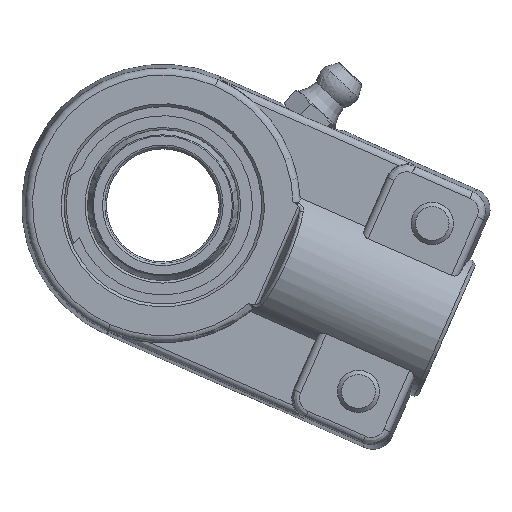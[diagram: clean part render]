
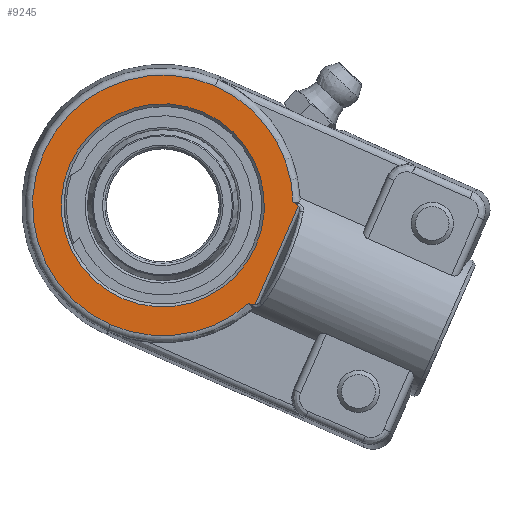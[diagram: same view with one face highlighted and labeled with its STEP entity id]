
A CAD part, left-side view. The second image highlights one B-rep face of the part: STEP entity #9245.
In plain terms, the highlighted planar face has unit normal (-1, 0, 0) as drawn and (0, 0, -1) by its records, which use the part's own axes.
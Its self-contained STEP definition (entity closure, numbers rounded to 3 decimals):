
#3676=CARTESIAN_POINT('',(-7.826,-16.732,-7.));
#3677=VERTEX_POINT('',#3676);
#3693=CARTESIAN_POINT('',(-7.826,-17.064,-7.));
#3694=VERTEX_POINT('',#3693);
#3695=CARTESIAN_POINT('',(-7.826,-16.732,-7.));
#3696=DIRECTION('',(0.0,-1.0,0.0));
#3697=VECTOR('',#3696,0.332);
#3698=LINE('',#3695,#3697);
#3699=EDGE_CURVE('',#3677,#3694,#3698,.T.);
#3757=CARTESIAN_POINT('',(7.826,-17.064,-7.));
#3758=VERTEX_POINT('',#3757);
#3770=CARTESIAN_POINT('',(7.826,-16.732,-7.));
#3771=VERTEX_POINT('',#3770);
#3772=CARTESIAN_POINT('',(7.826,-17.064,-7.));
#3773=DIRECTION('',(0.0,1.0,0.0));
#3774=VECTOR('',#3773,0.332);
#3775=LINE('',#3772,#3774);
#3776=EDGE_CURVE('',#3758,#3771,#3775,.T.);
#4382=CARTESIAN_POINT('',(0.0,14.4,-7.));
#4383=VERTEX_POINT('',#4382);
#4384=CARTESIAN_POINT('',(0.0,0.0,-7.));
#4385=DIRECTION('',(0.0,0.0,1.0));
#4386=DIRECTION('',(0.0,1.0,0.0));
#4387=AXIS2_PLACEMENT_3D('',#4384,#4385,#4386);
#4388=CIRCLE('',#4387,14.4);
#4389=EDGE_CURVE('',#4383,#4383,#4388,.T.);
#7876=CARTESIAN_POINT('',(-18.471,0.,-7.));
#7877=VERTEX_POINT('',#7876);
#7885=CARTESIAN_POINT('',(0.0,0.,-7.));
#7886=DIRECTION('',(0.0,0.0,1.));
#7887=DIRECTION('',(-0.842,-0.54,0.0));
#7888=AXIS2_PLACEMENT_3D('',#7885,#7886,#7887);
#7889=CIRCLE('',#7888,18.471);
#7890=EDGE_CURVE('',#7877,#3677,#7889,.T.);
#7908=CARTESIAN_POINT('',(-18.471,0.,-7.));
#7909=VERTEX_POINT('',#7908);
#7917=CARTESIAN_POINT('',(-18.471,0.,-7.));
#7918=DIRECTION('',(0.0,-1.0,0.0));
#7919=VECTOR('',#7918,0.001);
#7920=LINE('',#7917,#7919);
#7921=EDGE_CURVE('',#7909,#7877,#7920,.T.);
#7938=CARTESIAN_POINT('',(18.471,0.,-7.));
#7939=VERTEX_POINT('',#7938);
#7947=CARTESIAN_POINT('',(0.,0.,-7.));
#7948=DIRECTION('',(0.0,0.0,1.0));
#7949=DIRECTION('',(0.0,1.0,0.0));
#7950=AXIS2_PLACEMENT_3D('',#7947,#7948,#7949);
#7951=CIRCLE('',#7950,18.471);
#7952=EDGE_CURVE('',#7939,#7909,#7951,.T.);
#7966=CARTESIAN_POINT('',(18.471,-0.001,-7.));
#7967=VERTEX_POINT('',#7966);
#7975=CARTESIAN_POINT('',(18.471,-0.001,-7.));
#7976=DIRECTION('',(0.0,1.0,0.0));
#7977=VECTOR('',#7976,0.001);
#7978=LINE('',#7975,#7977);
#7979=EDGE_CURVE('',#7967,#7939,#7978,.T.);
#7996=CARTESIAN_POINT('',(0.0,0.,-7.));
#7997=DIRECTION('',(0.0,0.0,1.0));
#7998=DIRECTION('',(0.842,-0.54,0.0));
#7999=AXIS2_PLACEMENT_3D('',#7996,#7997,#7998);
#8000=CIRCLE('',#7999,18.471);
#8001=EDGE_CURVE('',#3771,#7967,#8000,.T.);
#8889=CARTESIAN_POINT('',(-7.599,-17.616,-7.));
#8890=VERTEX_POINT('',#8889);
#8891=CARTESIAN_POINT('',(-7.826,-17.064,-7.));
#8892=CARTESIAN_POINT('',(-7.826,-17.098,-7.));
#8893=CARTESIAN_POINT('',(-7.824,-17.133,-7.));
#8894=CARTESIAN_POINT('',(-7.808,-17.255,-7.));
#8895=CARTESIAN_POINT('',(-7.783,-17.34,-7.));
#8896=CARTESIAN_POINT('',(-7.712,-17.48,-7.));
#8897=CARTESIAN_POINT('',(-7.668,-17.547,-7.));
#8898=CARTESIAN_POINT('',(-7.601,-17.615,-7.));
#8899=CARTESIAN_POINT('',(-7.6,-17.616,-7.));
#8900=CARTESIAN_POINT('',(-7.599,-17.616,-7.));
#8901=B_SPLINE_CURVE_WITH_KNOTS('',3,(#8891,#8892,#8893,#8894,#8895,#8896,#8897,#8898,#8899,#8900),.UNSPECIFIED.,.F.,.U.,(4,2,2,2,4),(0.0,0.01,0.037,0.058,0.058),.UNSPECIFIED.);
#8902=EDGE_CURVE('',#3694,#8890,#8901,.T.);
#9054=CARTESIAN_POINT('',(7.599,-17.616,-7.));
#9055=VERTEX_POINT('',#9054);
#9067=CARTESIAN_POINT('',(7.599,-17.616,-7.));
#9068=CARTESIAN_POINT('',(7.6,-17.616,-7.));
#9069=CARTESIAN_POINT('',(7.601,-17.615,-7.0));
#9070=CARTESIAN_POINT('',(7.639,-17.577,-7.0));
#9071=CARTESIAN_POINT('',(7.672,-17.536,-7.0));
#9072=CARTESIAN_POINT('',(7.73,-17.446,-7.0));
#9073=CARTESIAN_POINT('',(7.755,-17.399,-7.));
#9074=CARTESIAN_POINT('',(7.809,-17.258,-7.));
#9075=CARTESIAN_POINT('',(7.826,-17.161,-7.));
#9076=CARTESIAN_POINT('',(7.826,-17.064,-7.));
#9077=B_SPLINE_CURVE_WITH_KNOTS('',3,(#9067,#9068,#9069,#9070,#9071,#9072,#9073,#9074,#9075,#9076),.UNSPECIFIED.,.F.,.U.,(4,2,2,2,4),(0.,0.0,0.016,0.032,0.061),.UNSPECIFIED.);
#9078=EDGE_CURVE('',#9055,#3758,#9077,.T.);
#9099=CARTESIAN_POINT('',(-7.599,-17.616,-7.));
#9100=DIRECTION('',(1.0,0.0,0.0));
#9101=VECTOR('',#9100,15.199);
#9102=LINE('',#9099,#9101);
#9103=EDGE_CURVE('',#8890,#9055,#9102,.T.);
#9225=CARTESIAN_POINT('',(0.,0.0,-7.));
#9226=DIRECTION('',(0.0,0.0,1.0));
#9227=DIRECTION('',(1.0,0.0,0.0));
#9228=AXIS2_PLACEMENT_3D('',#9225,#9226,#9227);
#9229=PLANE('',#9228);
#9230=ORIENTED_EDGE('',*,*,#9078,.F.);
#9231=ORIENTED_EDGE('',*,*,#9103,.F.);
#9232=ORIENTED_EDGE('',*,*,#8902,.F.);
#9233=ORIENTED_EDGE('',*,*,#3699,.F.);
#9234=ORIENTED_EDGE('',*,*,#7890,.F.);
#9235=ORIENTED_EDGE('',*,*,#7921,.F.);
#9236=ORIENTED_EDGE('',*,*,#7952,.F.);
#9237=ORIENTED_EDGE('',*,*,#7979,.F.);
#9238=ORIENTED_EDGE('',*,*,#8001,.F.);
#9239=ORIENTED_EDGE('',*,*,#3776,.F.);
#9240=EDGE_LOOP('',(#9230,#9231,#9232,#9233,#9234,#9235,#9236,#9237,#9238,#9239));
#9241=FACE_OUTER_BOUND('',#9240,.T.);
#9242=ORIENTED_EDGE('',*,*,#4389,.T.);
#9243=EDGE_LOOP('',(#9242));
#9244=FACE_BOUND('',#9243,.T.);
#9245=ADVANCED_FACE('',(#9241,#9244),#9229,.F.);
